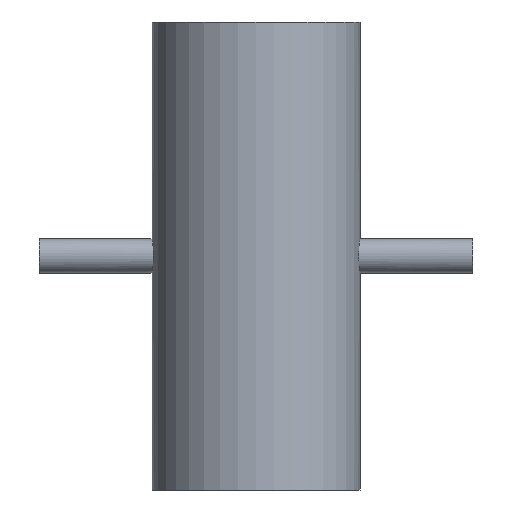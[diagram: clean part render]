
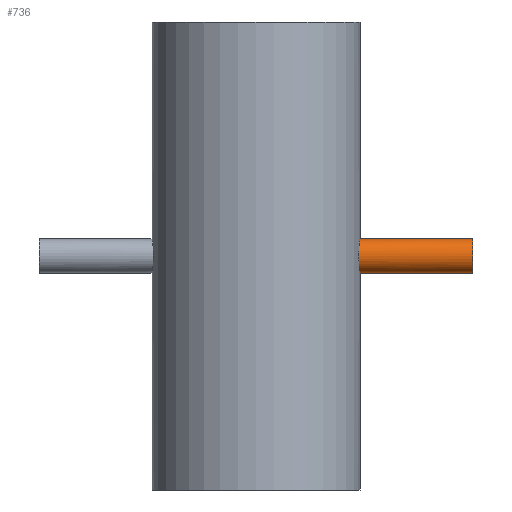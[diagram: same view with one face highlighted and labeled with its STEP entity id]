
A CAD part, front view. The second image highlights one B-rep face of the part: STEP entity #736.
In plain terms, the highlighted cylindrical face has radius 6.35 mm (diameter 12.7 mm), a partial arc.
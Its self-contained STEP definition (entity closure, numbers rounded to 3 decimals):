
#15 = CARTESIAN_POINT ( 'NONE',  ( 38.065, -1.644, -6.137 ) ) ;
#20 = VECTOR ( 'NONE', #637, 1000. ) ;
#22 = CARTESIAN_POINT ( 'NONE',  ( 37.672, -5.698, 2.81 ) ) ;
#25 = CARTESIAN_POINT ( 'NONE',  ( 38.047, -2.052, 6.024 ) ) ;
#32 = CYLINDRICAL_SURFACE ( 'NONE', #493, 6.35 ) ;
#33 = CARTESIAN_POINT ( 'NONE',  ( 38.01, -2.628, 5.785 ) ) ;
#47 = ORIENTED_EDGE ( 'NONE', *, *, #287, .T. ) ;
#50 = CARTESIAN_POINT ( 'NONE',  ( 38.1, -0.42, -6.35 ) ) ;
#79 = B_SPLINE_CURVE_WITH_KNOTS ( 'NONE', 3,
 ( #225, #50, #265, #652, #15, #651, #706, #766, #561, #100, #658, #650, #436, #400, #180, #586, #442, #386, #169, #139, #111, #560, #660, #355, #602, #302, #350, #22, #402, #148, #388, #168, #119, #663, #672, #681, #654, #33, #25, #224, #294, #212, #630 ),
 .UNSPECIFIED., .F., .F.,
 ( 4, 2, 2, 2, 2, 2, 2, 2, 1, 2, 2, 2, 2, 2, 2, 2, 2, 2, 2, 2, 2, 4 ),
 ( 0.02, 0.021, 0.022, 0.022, 0.024, 0.025, 0.026, 0.027, 0.027, 0.028, 0.029, 0.03, 0.031, 0.032, 0.033, 0.034, 0.035, 0.036, 0.037, 0.037, 0.039, 0.04 ),
 .UNSPECIFIED. ) ;
#100 = CARTESIAN_POINT ( 'NONE',  ( 37.904, -3.872, -5.05 ) ) ;
#111 = CARTESIAN_POINT ( 'NONE',  ( 37.574, -6.309, -0.832 ) ) ;
#115 = LINE ( 'NONE', #763, #210 ) ;
#119 = CARTESIAN_POINT ( 'NONE',  ( 37.869, -4.197, 4.783 ) ) ;
#125 = FACE_OUTER_BOUND ( 'NONE', #127, .T. ) ;
#127 = EDGE_LOOP ( 'NONE', ( #695, #190, #47, #464 ) ) ;
#139 = CARTESIAN_POINT ( 'NONE',  ( 37.594, -6.186, -1.447 ) ) ;
#148 = CARTESIAN_POINT ( 'NONE',  ( 37.716, -5.395, 3.355 ) ) ;
#168 = CARTESIAN_POINT ( 'NONE',  ( 37.799, -4.788, 4.192 ) ) ;
#169 = CARTESIAN_POINT ( 'NONE',  ( 37.603, -6.135, -1.651 ) ) ;
#180 = CARTESIAN_POINT ( 'NONE',  ( 37.701, -5.501, -3.178 ) ) ;
#190 = ORIENTED_EDGE ( 'NONE', *, *, #282, .F. ) ;
#210 = VECTOR ( 'NONE', #329, 1000. ) ;
#212 = CARTESIAN_POINT ( 'NONE',  ( 38.1, -0.42, 6.35 ) ) ;
#224 = CARTESIAN_POINT ( 'NONE',  ( 38.066, -1.656, 6.144 ) ) ;
#225 = CARTESIAN_POINT ( 'NONE',  ( 38.1, 0., -6.35 ) ) ;
#228 = CARTESIAN_POINT ( 'NONE',  ( 38.1, 0., 6.35 ) ) ;
#258 = LINE ( 'NONE', #694, #20 ) ;
#265 = CARTESIAN_POINT ( 'NONE',  ( 38.093, -0.833, -6.309 ) ) ;
#273 = CARTESIAN_POINT ( 'NONE',  ( 38.1, 0., -6.35 ) ) ;
#282 = EDGE_CURVE ( 'NONE', #443, #331, #79, .T. ) ;
#287 = EDGE_CURVE ( 'NONE', #443, #502, #115, .T. ) ;
#294 = CARTESIAN_POINT ( 'NONE',  ( 38.093, -0.841, 6.308 ) ) ;
#302 = CARTESIAN_POINT ( 'NONE',  ( 37.621, -6.027, 2.043 ) ) ;
#329 = DIRECTION ( 'NONE',  ( 1., 0., 0. ) ) ;
#331 = VERTEX_POINT ( 'NONE', #228 ) ;
#333 = CARTESIAN_POINT ( 'NONE',  ( 79.375, 0., -6.35 ) ) ;
#350 = CARTESIAN_POINT ( 'NONE',  ( 37.658, -5.788, 2.62 ) ) ;
#355 = CARTESIAN_POINT ( 'NONE',  ( 37.574, -6.309, 0.831 ) ) ;
#386 = CARTESIAN_POINT ( 'NONE',  ( 37.622, -6.014, -2.049 ) ) ;
#388 = CARTESIAN_POINT ( 'NONE',  ( 37.764, -5.051, 3.87 ) ) ;
#400 = CARTESIAN_POINT ( 'NONE',  ( 37.717, -5.393, -3.358 ) ) ;
#402 = CARTESIAN_POINT ( 'NONE',  ( 37.701, -5.502, 3.177 ) ) ;
#436 = CARTESIAN_POINT ( 'NONE',  ( 37.765, -5.045, -3.879 ) ) ;
#442 = CARTESIAN_POINT ( 'NONE',  ( 37.645, -5.874, -2.439 ) ) ;
#443 = VERTEX_POINT ( 'NONE', #273 ) ;
#464 = ORIENTED_EDGE ( 'NONE', *, *, #645, .T. ) ;
#468 = AXIS2_PLACEMENT_3D ( 'NONE', #543, #551, #558 ) ;
#493 = AXIS2_PLACEMENT_3D ( 'NONE', #687, #781, #509 ) ;
#502 = VERTEX_POINT ( 'NONE', #333 ) ;
#509 = DIRECTION ( 'NONE',  ( 0., 0., -1. ) ) ;
#538 = VERTEX_POINT ( 'NONE', #539 ) ;
#539 = CARTESIAN_POINT ( 'NONE',  ( 79.375, 0., 6.35 ) ) ;
#543 = CARTESIAN_POINT ( 'NONE',  ( 79.375, 0., 0. ) ) ;
#551 = DIRECTION ( 'NONE',  ( -1., 0., 0. ) ) ;
#558 = DIRECTION ( 'NONE',  ( 0., 0., -1. ) ) ;
#560 = CARTESIAN_POINT ( 'NONE',  ( 37.567, -6.35, -0.42 ) ) ;
#561 = CARTESIAN_POINT ( 'NONE',  ( 37.968, -3.182, -5.511 ) ) ;
#586 = CARTESIAN_POINT ( 'NONE',  ( 37.672, -5.697, -2.813 ) ) ;
#602 = CARTESIAN_POINT ( 'NONE',  ( 37.601, -6.147, 1.646 ) ) ;
#607 = CIRCLE ( 'NONE', #468, 6.35 ) ;
#630 = CARTESIAN_POINT ( 'NONE',  ( 38.1, 0., 6.35 ) ) ;
#637 = DIRECTION ( 'NONE',  ( 1., 0., 0. ) ) ;
#645 = EDGE_CURVE ( 'NONE', #502, #538, #607, .T. ) ;
#650 = CARTESIAN_POINT ( 'NONE',  ( 37.8, -4.783, -4.198 ) ) ;
#651 = CARTESIAN_POINT ( 'NONE',  ( 38.046, -2.043, -6.016 ) ) ;
#652 = CARTESIAN_POINT ( 'NONE',  ( 38.073, -1.443, -6.187 ) ) ;
#654 = CARTESIAN_POINT ( 'NONE',  ( 37.996, -2.818, 5.694 ) ) ;
#658 = CARTESIAN_POINT ( 'NONE',  ( 37.869, -4.198, -4.782 ) ) ;
#660 = CARTESIAN_POINT ( 'NONE',  ( 37.567, -6.35, 0.41 ) ) ;
#663 = CARTESIAN_POINT ( 'NONE',  ( 37.904, -3.878, 5.046 ) ) ;
#672 = CARTESIAN_POINT ( 'NONE',  ( 37.952, -3.363, 5.391 ) ) ;
#681 = CARTESIAN_POINT ( 'NONE',  ( 37.967, -3.185, 5.497 ) ) ;
#687 = CARTESIAN_POINT ( 'NONE',  ( -79.375, 0., 0. ) ) ;
#694 = CARTESIAN_POINT ( 'NONE',  ( -79.375, 0., 6.35 ) ) ;
#695 = ORIENTED_EDGE ( 'NONE', *, *, #724, .F. ) ;
#706 = CARTESIAN_POINT ( 'NONE',  ( 38.034, -2.242, -5.945 ) ) ;
#724 = EDGE_CURVE ( 'NONE', #331, #538, #258, .T. ) ;
#736 = ADVANCED_FACE ( 'NONE', ( #125 ), #32, .T. ) ;
#763 = CARTESIAN_POINT ( 'NONE',  ( -79.375, 0., -6.35 ) ) ;
#766 = CARTESIAN_POINT ( 'NONE',  ( 37.998, -2.818, -5.706 ) ) ;
#781 = DIRECTION ( 'NONE',  ( 1., 0., 0. ) ) ;
